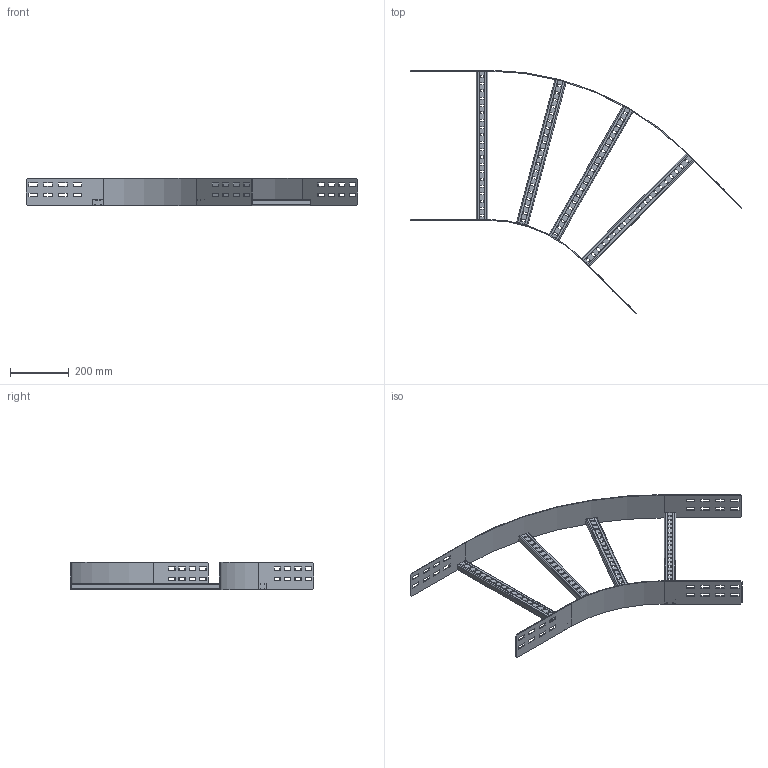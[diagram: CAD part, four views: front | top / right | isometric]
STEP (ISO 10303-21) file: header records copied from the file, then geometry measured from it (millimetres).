
FILE_DESCRIPTION(('Creo Elements/Direct Modeling STEP Export'),'2;1');
FILE_NAME('WPHB10-50-45-45.stp','2016-05-20T 8:31:28',(''),(''),'PTC Creo Elements/Direct Modeling STEP processor for AP214 (Solid Model)','PTC Creo Elements/Direct Modeling 19.0C 15-Aug-2015 (C) Parametric Technology GmbH','');
FILE_SCHEMA(('AUTOMOTIVE_DESIGN { 1 0 10303 214 1 1 1 1 }'));
Length unit declared in the file: millimetre
Products named in the file (4): WPHBS50.004; WPBA_100-50-45; WPBI_100-45; WPHB10-50-45-45
Assembly tree (6 placements, depth 2):
  WPHB10-50-45-45
    WPBI_100-45
    WPHBS50.004  x4
    WPBA_100-50-45
Bounding box: 1129.79 x 829.31 x 95 mm (x, y, z)
Volume: 877974.9 mm3; surface area: 816032.8 mm2
Topology: 6 solids, 6 shells, 636 faces, 1872 edges, 1248 vertices
Faces by surface type: plane 400, cylinder 236
Entity records: 9430 total; most frequent: CARTESIAN_POINT 1632, ORIENTED_EDGE 1620, DIRECTION 1498, EDGE_CURVE 810, VECTOR 686, LINE 686, VERTEX_POINT 540, AXIS2_PLACEMENT_3D 406
